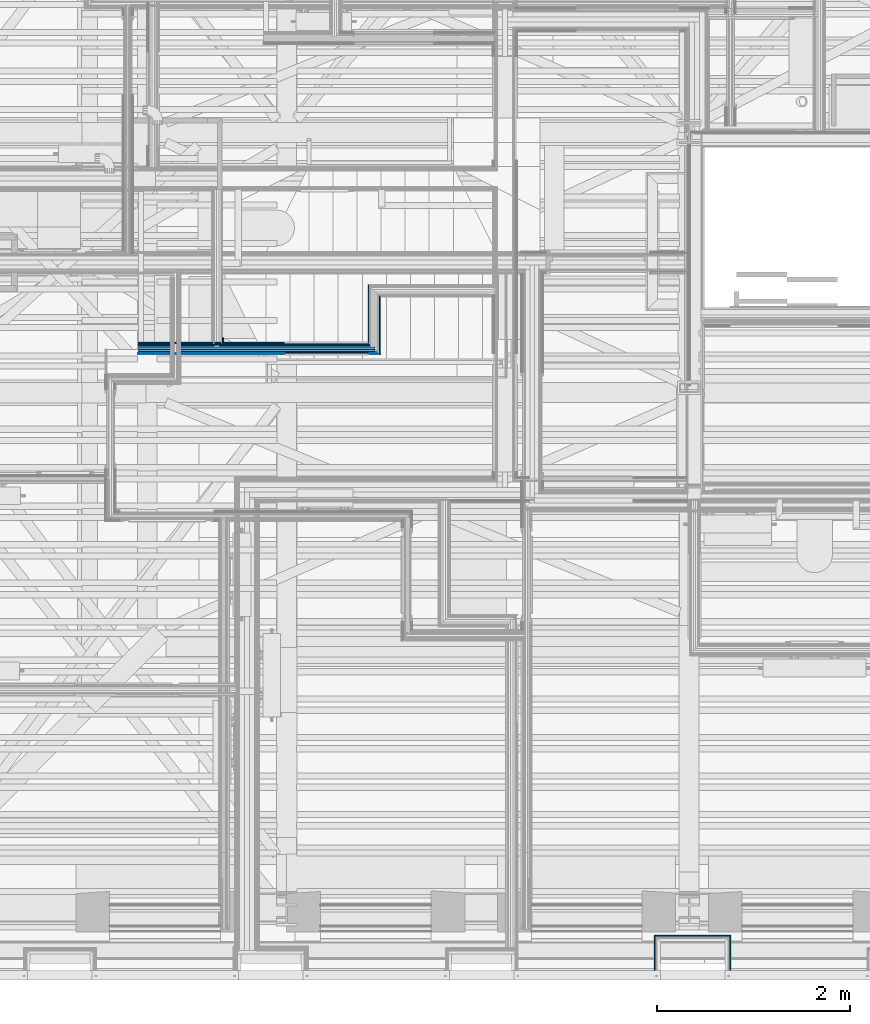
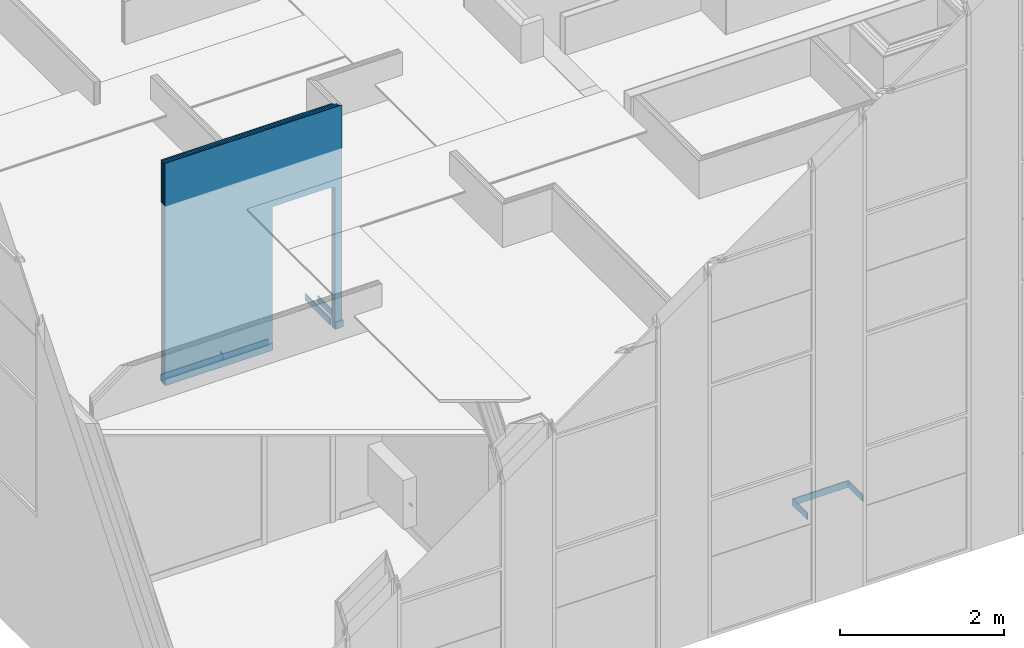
# One storey, part 65 of 183: 15 building element parts, 2 openings, 6 elements without a shape of their own.
"""IFC2X3 building model written with IfcOpenShell, lengths in metres."""

from ifc_helpers import new_model, entity, si_unit, converted_unit, derived_unit, money_unit, direction, frame, frame_2d, origin_with_axes, place, context, subcontext, project, spatial, polyline, rectangle, outline, extrude, material, type_object, element, aggregate, save


model = new_model("IFC2X3")

# Units and contexts
model_context = context("Model", 3, precision=1e-05, world=origin_with_axes(), true_north=direction((0.0, 1.0)))
body_context = subcontext(model_context, "Body", "Model", "MODEL_VIEW", scale=1.0)
ifc_project = project(units=[si_unit("LENGTHUNIT", "METRE"), si_unit("AREAUNIT", "SQUARE_METRE"), si_unit("VOLUMEUNIT", "CUBIC_METRE"), si_unit("ABSORBEDDOSEUNIT", "GRAY"), si_unit("AMOUNTOFSUBSTANCEUNIT", "MOLE"), si_unit("DOSEEQUIVALENTUNIT", "SIEVERT"), si_unit("ELECTRICCAPACITANCEUNIT", "FARAD"), si_unit("ELECTRICCHARGEUNIT", "COULOMB"), si_unit("ELECTRICCONDUCTANCEUNIT", "SIEMENS"), si_unit("ELECTRICCURRENTUNIT", "AMPERE"), si_unit("ELECTRICRESISTANCEUNIT", "OHM"), si_unit("ELECTRICVOLTAGEUNIT", "VOLT"), si_unit("ENERGYUNIT", "JOULE"), si_unit("FORCEUNIT", "NEWTON"), si_unit("FREQUENCYUNIT", "HERTZ"), si_unit("ILLUMINANCEUNIT", "LUX"), si_unit("INDUCTANCEUNIT", "HENRY"), si_unit("LUMINOUSFLUXUNIT", "LUMEN"), si_unit("LUMINOUSINTENSITYUNIT", "CANDELA"), si_unit("MAGNETICFLUXDENSITYUNIT", "TESLA"), si_unit("MAGNETICFLUXUNIT", "WEBER"), si_unit("MASSUNIT", "GRAM"), converted_unit("PLANEANGLEUNIT", "degree", entity("IfcReal", 0.0174532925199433), si_unit("PLANEANGLEUNIT", "RADIAN"), dimensions=[0, 0, 0, 0, 0, 0, 0]), si_unit("POWERUNIT", "WATT"), si_unit("PRESSUREUNIT", "PASCAL"), si_unit("RADIOACTIVITYUNIT", "BECQUEREL"), si_unit("SOLIDANGLEUNIT", "STERADIAN"), si_unit("THERMODYNAMICTEMPERATUREUNIT", "KELVIN"), si_unit("TIMEUNIT", "SECOND"), derived_unit("ACCELERATIONUNIT", [(si_unit("LENGTHUNIT", "METRE"), 1), (si_unit("TIMEUNIT", "SECOND"), -2)]), derived_unit("ANGULARVELOCITYUNIT", [(converted_unit("PLANEANGLEUNIT", "degree", entity("IfcReal", 0.0174532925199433), si_unit("PLANEANGLEUNIT", "RADIAN"), dimensions=[0, 0, 0, 0, 0, 0, 0]), 1), (si_unit("TIMEUNIT", "SECOND"), -1)]), derived_unit("CURVATUREUNIT", [(converted_unit("PLANEANGLEUNIT", "degree", entity("IfcReal", 0.0174532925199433), si_unit("PLANEANGLEUNIT", "RADIAN"), dimensions=[0, 0, 0, 0, 0, 0, 0]), 1), (si_unit("LENGTHUNIT", "METRE"), -1)]), derived_unit("DYNAMICVISCOSITYUNIT", [(si_unit("PRESSUREUNIT", "PASCAL"), 1), (si_unit("TIMEUNIT", "SECOND"), 1)]), derived_unit("HEATFLUXDENSITYUNIT", [(si_unit("POWERUNIT", "WATT"), 1), (si_unit("LENGTHUNIT", "METRE"), -2)]), derived_unit("HEATINGVALUEUNIT", [(si_unit("ENERGYUNIT", "JOULE"), 1), (si_unit("MASSUNIT", "GRAM"), -1)]), derived_unit("INTEGERCOUNTRATEUNIT", [(si_unit("TIMEUNIT", "SECOND"), -1)]), derived_unit("IONCONCENTRATIONUNIT", [(si_unit("MASSUNIT", "GRAM"), 1), (si_unit("VOLUMEUNIT", "CUBIC_METRE"), -1)]), derived_unit("ISOTHERMALMOISTURECAPACITYUNIT", [(si_unit("VOLUMEUNIT", "CUBIC_METRE"), 1), (si_unit("MASSUNIT", "GRAM"), -1)]), derived_unit("KINEMATICVISCOSITYUNIT", [(si_unit("AREAUNIT", "SQUARE_METRE"), 1), (si_unit("TIMEUNIT", "SECOND"), -1)]), derived_unit("LINEARFORCEUNIT", [(si_unit("FORCEUNIT", "NEWTON"), 1), (si_unit("LENGTHUNIT", "METRE"), -1)]), derived_unit("LINEARMOMENTUNIT", [(si_unit("FORCEUNIT", "NEWTON"), 1), (si_unit("LENGTHUNIT", "METRE"), -1)]), derived_unit("LINEARSTIFFNESSUNIT", [(si_unit("FORCEUNIT", "NEWTON"), 1), (si_unit("LENGTHUNIT", "METRE"), -1)]), derived_unit("LINEARVELOCITYUNIT", [(si_unit("LENGTHUNIT", "METRE"), 1), (si_unit("TIMEUNIT", "SECOND"), -1)]), derived_unit("LUMINOUSINTENSITYDISTRIBUTIONUNIT", [(si_unit("LUMINOUSINTENSITYUNIT", "CANDELA"), 1), (si_unit("LUMINOUSFLUXUNIT", "LUMEN"), -1)]), derived_unit("MASSDENSITYUNIT", [(si_unit("MASSUNIT", "GRAM"), 1), (si_unit("VOLUMEUNIT", "CUBIC_METRE"), -1)]), derived_unit("MASSFLOWRATEUNIT", [(si_unit("MASSUNIT", "GRAM"), 1), (si_unit("TIMEUNIT", "SECOND"), -1)]), derived_unit("MASSPERLENGTHUNIT", [(si_unit("MASSUNIT", "GRAM"), 1), (si_unit("LENGTHUNIT", "METRE"), -1)]), derived_unit("MODULUSOFELASTICITYUNIT", [(si_unit("FORCEUNIT", "NEWTON"), 1), (si_unit("AREAUNIT", "SQUARE_METRE"), -1)]), derived_unit("MODULUSOFLINEARSUBGRADEREACTIONUNIT", [(si_unit("FORCEUNIT", "NEWTON"), 1), (si_unit("LENGTHUNIT", "METRE"), -2)]), derived_unit("MODULUSOFROTATIONALSUBGRADEREACTIONUNIT", [(si_unit("FORCEUNIT", "NEWTON"), 1), (si_unit("LENGTHUNIT", "METRE"), 1)]), derived_unit("MODULUSOFSUBGRADEREACTIONUNIT", [(si_unit("FORCEUNIT", "NEWTON"), 1), (si_unit("VOLUMEUNIT", "CUBIC_METRE"), -1)]), derived_unit("MOISTUREDIFFUSIVITYUNIT", [(si_unit("VOLUMEUNIT", "CUBIC_METRE"), 1), (si_unit("TIMEUNIT", "SECOND"), -1)]), derived_unit("MOLECULARWEIGHTUNIT", [(si_unit("MASSUNIT", "GRAM"), 1), (si_unit("AMOUNTOFSUBSTANCEUNIT", "MOLE"), -1)]), derived_unit("PLANARFORCEUNIT", [(si_unit("FORCEUNIT", "NEWTON"), 1), (si_unit("LENGTHUNIT", "METRE"), -2)]), derived_unit("ROTATIONALFREQUENCYUNIT", [(si_unit("TIMEUNIT", "SECOND"), -1)]), derived_unit("ROTATIONALMASSUNIT", [(si_unit("MASSUNIT", "GRAM"), 1), (si_unit("LENGTHUNIT", "METRE"), 2)]), derived_unit("ROTATIONALSTIFFNESSUNIT", [(si_unit("FORCEUNIT", "NEWTON"), 1), (si_unit("LENGTHUNIT", "METRE"), 1), (converted_unit("PLANEANGLEUNIT", "degree", entity("IfcReal", 0.0174532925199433), si_unit("PLANEANGLEUNIT", "RADIAN"), dimensions=[0, 0, 0, 0, 0, 0, 0]), -1)]), derived_unit("SECTIONAREAINTEGRALUNIT", [(si_unit("LENGTHUNIT", "METRE"), 5)]), derived_unit("SECTIONMODULUSUNIT", [(si_unit("LENGTHUNIT", "METRE"), 3)]), derived_unit("SHEARMODULUSUNIT", [(si_unit("FORCEUNIT", "NEWTON"), 1), (si_unit("AREAUNIT", "SQUARE_METRE"), -1)]), derived_unit("SOUNDPOWERUNIT", [(si_unit("ENERGYUNIT", "JOULE"), 1), (si_unit("TIMEUNIT", "SECOND"), -1)]), derived_unit("SPECIFICHEATCAPACITYUNIT", [(si_unit("FORCEUNIT", "NEWTON"), 1), (si_unit("MASSUNIT", "GRAM"), -1), (si_unit("THERMODYNAMICTEMPERATUREUNIT", "KELVIN"), -1)]), derived_unit("TEMPERATUREGRADIENTUNIT", [(si_unit("THERMODYNAMICTEMPERATUREUNIT", "KELVIN"), 1), (si_unit("LENGTHUNIT", "METRE"), -1)]), derived_unit("THERMALADMITTANCEUNIT", [(si_unit("POWERUNIT", "WATT"), 1), (si_unit("AREAUNIT", "SQUARE_METRE"), -1), (si_unit("THERMODYNAMICTEMPERATUREUNIT", "KELVIN"), -1)]), derived_unit("THERMALCONDUCTANCEUNIT", [(si_unit("POWERUNIT", "WATT"), 1), (si_unit("LENGTHUNIT", "METRE"), -1), (si_unit("THERMODYNAMICTEMPERATUREUNIT", "KELVIN"), -1)]), derived_unit("THERMALEXPANSIONCOEFFICIENTUNIT", [(si_unit("THERMODYNAMICTEMPERATUREUNIT", "KELVIN"), -1)]), derived_unit("THERMALRESISTANCEUNIT", [(si_unit("AREAUNIT", "SQUARE_METRE"), 1), (si_unit("POWERUNIT", "WATT"), -1)]), derived_unit("THERMALTRANSMITTANCEUNIT", [(si_unit("POWERUNIT", "WATT"), 1), (si_unit("AREAUNIT", "SQUARE_METRE"), -1), (si_unit("THERMODYNAMICTEMPERATUREUNIT", "KELVIN"), -1)]), derived_unit("TORQUEUNIT", [(si_unit("FORCEUNIT", "NEWTON"), 1), (si_unit("LENGTHUNIT", "METRE"), 1)]), derived_unit("VAPORPERMEABILITYUNIT", [(si_unit("MASSUNIT", "GRAM"), 1), (si_unit("TIMEUNIT", "SECOND"), -1)]), derived_unit("VOLUMETRICFLOWRATEUNIT", [(si_unit("VOLUMEUNIT", "CUBIC_METRE"), 1), (si_unit("TIMEUNIT", "SECOND"), -1)]), derived_unit("WARPINGCONSTANTUNIT", [(si_unit("LENGTHUNIT", "METRE"), 6)]), derived_unit("WARPINGMOMENTUNIT", [(si_unit("FORCEUNIT", "NEWTON"), 1), (si_unit("LENGTHUNIT", "METRE"), 2)]), money_unit("GBP")], contexts=[model_context])

# Site, building, storey
site_placement = place(None, origin_with_axes())
site = spatial("IfcSite", under=ifc_project, at=site_placement, Name="Site", CompositionType="ELEMENT")
building_placement = place(site_placement, origin_with_axes())
building = spatial("IfcBuilding", under=site, at=building_placement, Name="Building01", CompositionType="ELEMENT")
storey_placement = place(building_placement, frame((0.0, 0.0, 5.15), z_axis=(0.0, 0.0, 1.0), x_axis=(1.0, 0.0, 0.0)))
storey = spatial("IfcBuildingStorey", under=building, at=storey_placement, Name="1F", CompositionType="ELEMENT", Elevation=5.15)

# Wall, building element part
wall_type_1 = type_object("IfcWallType", Name="SHE_A-Walls_Type06d_ExternalWallInsulation_48mm", PredefinedType="NOTDEFINED")
wall_1_placement = place(storey_placement, frame((8.79, 0.1, 0.0), z_axis=(0.0, 0.0, 1.0), x_axis=(0.0, 1.0, 0.0)))
wall_1 = element("IfcWall", 1, at=wall_1_placement, inside=storey, type_object=wall_type_1, Name="6D", ObjectType="SHE_A-Walls_Type06d_ExternalWallInsulation_48mm")
ifc_material_1 = material(Name="A_BSUK_Walls_Timber")
building_element_part_1_placement = place(wall_1_placement, origin_with_axes())
building_element_part_1 = element("IfcBuildingElementPart", 2, at=building_element_part_1_placement, material=ifc_material_1, Name="3", context=body_context, shape_type="SweptSolid", body=[
    extrude(outline(polyline([(0.363, 0.063), (0.0, 0.063), (0.0, 0.048), (0.348, 0.048), (0.363, 0.063)])), frame((0.0, 0.0, 0.015), z_axis=(0.0, 0.0, 1.0), x_axis=(1.0, 0.0, 0.0)), (0.0, 0.0, 1.0), 0.1),
])
aggregate(wall_1, [building_element_part_1])

wall_2_placement = place(storey_placement, frame((8.79, 0.4, 0.0), z_axis=(0.0, 0.0, 1.0), x_axis=(1.0, 0.0, 0.0)))
wall_2 = element("IfcWall", 3, at=wall_2_placement, inside=storey, type_object=wall_type_1, Name="6D", ObjectType="SHE_A-Walls_Type06d_ExternalWallInsulation_48mm")
building_element_part_2_placement = place(wall_2_placement, origin_with_axes())
building_element_part_2 = element("IfcBuildingElementPart", 4, at=building_element_part_2_placement, material=ifc_material_1, Name="3", context=body_context, shape_type="SweptSolid", body=[
    extrude(outline(polyline([(0.733, 0.063), (-0.063, 0.063), (-0.048, 0.048), (0.718, 0.048), (0.733, 0.063)])), frame((0.0, 0.0, 0.015), z_axis=(0.0, 0.0, 1.0), x_axis=(1.0, 0.0, 0.0)), (0.0, 0.0, 1.0), 0.1),
])
aggregate(wall_2, [building_element_part_2])

wall_3_placement = place(storey_placement, frame((9.46, 0.4, 0.0), z_axis=(0.0, 0.0, 1.0), x_axis=(0.0, -1.0, 0.0)))
wall_3 = element("IfcWall", 5, at=wall_3_placement, inside=storey, type_object=wall_type_1, Name="6D", ObjectType="SHE_A-Walls_Type06d_ExternalWallInsulation_48mm")
building_element_part_3_placement = place(wall_3_placement, origin_with_axes())
building_element_part_3 = element("IfcBuildingElementPart", 6, at=building_element_part_3_placement, material=ifc_material_1, Name="3", context=body_context, shape_type="SweptSolid", body=[
    extrude(outline(polyline([(-0.063, 0.063), (-0.048, 0.048), (0.3, 0.048), (0.3, 0.063), (-0.063, 0.063)])), frame((0.0, 0.0, 0.015), z_axis=(0.0, 0.0, 1.0), x_axis=(1.0, 0.0, 0.0)), (0.0, 0.0, 1.0), 0.1),
])
aggregate(wall_3, [building_element_part_3])

wall_type_2 = type_object("IfcWallType", Name="SHE_A-Walls_Type05a_Partition_95mm_tall", PredefinedType="NOTDEFINED")
wall_4_placement = place(storey_placement, frame((4.20573, 6.571475, 0.0), z_axis=(0.0, 0.0, 1.0), x_axis=(0.0, 1.0, 0.0)))
wall_4 = element("IfcWall", 7, at=wall_4_placement, inside=storey, type_object=wall_type_2, Name="5A", ObjectType="SHE_A-Walls_Type05a_Partition_95mm_tall")
building_element_part_4_placement = place(wall_4_placement, origin_with_axes())
building_element_part_4 = element("IfcBuildingElementPart", 8, at=building_element_part_4_placement, material=ifc_material_1, Name="1", context=body_context, shape_type="SweptSolid", body=[
    extrude(rectangle(XDim=0.015, YDim=0.050695, at=frame_2d((0.075347, -0.0425), x_axis=(0.0, -1.0))), frame((0.0, 0.0, 0.015), z_axis=(0.0, 0.0, 1.0), x_axis=(1.0, 0.0, 0.0)), (0.0, 0.0, 1.0), 0.1),
])
aggregate(wall_4, [building_element_part_4])

# Wall, openings, building element parts
wall_5_placement = place(storey_placement, frame((5.829669, 6.571475, 0.0), z_axis=(0.0, 0.0, 1.0), x_axis=(-1.0, 0.0, 0.0)))
wall_5 = element("IfcWall", 9, at=wall_5_placement, inside=storey, type_object=wall_type_2, Name="5A", ObjectType="SHE_A-Walls_Type05a_Partition_95mm_tall")
opening_1_placement = place(wall_5_placement, frame((0.058581, 0.075, -0.015), z_axis=(0.0, 0.0, 1.0), x_axis=(1.0, 0.0, 0.0)))
element("IfcOpeningElement", 10, at=opening_1_placement, cuts=wall_5, Name="Opening", ObjectType="Opening", context=body_context, shape_type="SweptSolid", body=[
    extrude(rectangle(XDim=2.142, YDim=0.834, at=frame_2d((0.417, 1.071), x_axis=(0.0, -1.0))), frame((0.0, 0.0, 0.0), z_axis=(0.0, -1.0, 0.0), x_axis=(1.0, 0.0, 0.0)), (0.0, 0.0, 1.0), 0.125),
])
opening_2_placement = place(wall_5_placement, frame((0.108581, 0.075, 0.0), z_axis=(0.0, 0.0, 1.0), x_axis=(1.0, 0.0, 0.0)))
element("IfcOpeningElement", 11, at=opening_2_placement, cuts=wall_5, Name="Opening", ObjectType="Opening", context=body_context, shape_type="SweptSolid", body=[
    extrude(rectangle(XDim=2.142, YDim=0.834, at=frame_2d((0.417, 1.071), x_axis=(0.0, -1.0))), frame((0.0, 0.0, 0.0), z_axis=(0.0, -1.0, 0.0), x_axis=(1.0, 0.0, 0.0)), (0.0, 0.0, 1.0), 0.125),
])
placement_1 = place(wall_5_placement, origin_with_axes())
building_element_part_5 = element("IfcBuildingElementPart", 12, at=placement_1, material=ifc_material_1, Name="1", context=body_context, shape_type="SweptSolid", body=[
    extrude(outline(polyline([(1.588939, -0.035), (0.06, -0.035), (0.075, -0.05), (1.588939, -0.05), (1.588939, -0.035)])), frame((0.0, 0.0, 0.015), z_axis=(0.0, 0.0, 1.0), x_axis=(1.0, 0.0, 0.0)), (0.0, 0.0, 1.0), 0.1),
])
building_element_part_6 = element("IfcBuildingElementPart", 13, at=placement_1, material=ifc_material_1, Name="2", context=body_context, shape_type="SweptSolid", body=[
    extrude(outline(polyline([(0.06, -0.035), (0.075, -0.05), (2.458939, -0.05), (2.458939, -0.035), (0.06, -0.035)])), frame((0.0, 0.0, 0.015), z_axis=(0.0, 0.0, 1.0), x_axis=(1.0, 0.0, 0.0)), (0.0, 0.0, 1.0), 0.1),
])
ifc_material_2 = material(Name="A_BSUK_WallInternal_Finishes_Plasterboard")
building_element_part_7 = element("IfcBuildingElementPart", 14, at=placement_1, material=ifc_material_2, Name="3", context=body_context, shape_type="SweptSolid", body=[
    extrude(outline(polyline([(1.600939, -0.023), (0.048, -0.023), (0.06, -0.035), (1.600939, -0.035), (1.600939, -0.023)])), origin_with_axes(), (0.0, 0.0, 1.0), 3.32),
])
building_element_part_8 = element("IfcBuildingElementPart", 15, at=placement_1, material=ifc_material_2, Name="4", context=body_context, shape_type="SweptSolid", body=[
    extrude(outline(polyline([(0.048, -0.023), (0.06, -0.035), (2.458939, -0.035), (2.458939, -0.023), (0.048, -0.023)])), origin_with_axes(), (0.0, 0.0, 1.0), 3.32),
])
ifc_material_3 = material(Name="Air Cavity")
building_element_part_9 = element("IfcBuildingElementPart", 16, at=placement_1, material=ifc_material_3, Name="5", context=body_context, shape_type="SweptSolid", body=[
    extrude(outline(polyline([(0.025, 0.0), (0.048, -0.023), (2.458939, -0.023), (2.458939, 0.0), (0.025, 0.0)])), origin_with_axes(), (0.0, 0.0, 1.0), 3.32),
])
ifc_material_4 = material(Name="A_BSUK_Insulation")
building_element_part_10 = element("IfcBuildingElementPart", 17, at=placement_1, material=ifc_material_4, Name="6", context=body_context, shape_type="SweptSolid", body=[
    extrude(rectangle(XDim=0.025, YDim=2.458939, at=frame_2d((1.229469, 0.0125), x_axis=(0.0, -1.0))), origin_with_axes(), (0.0, 0.0, 1.0), 3.32),
])
building_element_part_11 = element("IfcBuildingElementPart", 18, at=placement_1, material=ifc_material_3, Name="7", context=body_context, shape_type="SweptSolid", body=[
    extrude(rectangle(XDim=0.023, YDim=2.458939, at=frame_2d((1.229469, 0.0365), x_axis=(0.0, -1.0))), origin_with_axes(), (0.0, 0.0, 1.0), 3.32),
])
building_element_part_12 = element("IfcBuildingElementPart", 19, at=placement_1, material=ifc_material_2, Name="8", context=body_context, shape_type="SweptSolid", body=[
    extrude(outline(polyline([(-0.035, 0.06), (-0.023, 0.048), (2.458939, 0.048), (2.458939, 0.06), (-0.035, 0.06)])), origin_with_axes(), (0.0, 0.0, 1.0), 3.32),
])
building_element_part_13 = element("IfcBuildingElementPart", 20, at=placement_1, material=ifc_material_1, Name="9", context=body_context, shape_type="SweptSolid", body=[
    extrude(outline(polyline([(-0.05, 0.075), (-0.035, 0.06), (2.458939, 0.06), (2.458939, 0.075), (-0.05, 0.075)])), frame((0.0, 0.0, 0.015), z_axis=(0.0, 0.0, 1.0), x_axis=(1.0, 0.0, 0.0)), (0.0, 0.0, 1.0), 0.1),
])
aggregate(wall_5, [building_element_part_5, building_element_part_6, building_element_part_7, building_element_part_8, building_element_part_9, building_element_part_10, building_element_part_11, building_element_part_12, building_element_part_13])

# Wall, building element parts
wall_6_placement = place(storey_placement, frame((5.804669, 6.571475, 0.0), z_axis=(0.0, 0.0, 1.0), x_axis=(0.0, 1.0, 0.0)))
wall_6 = element("IfcWall", 21, at=wall_6_placement, inside=storey, type_object=wall_type_2, Name="5A", ObjectType="SHE_A-Walls_Type05a_Partition_95mm_tall")
placement_2 = place(wall_6_placement, origin_with_axes())
building_element_part_14 = element("IfcBuildingElementPart", 22, at=placement_2, material=ifc_material_1, Name="1", context=body_context, shape_type="SweptSolid", body=[
    extrude(outline(polyline([(0.54, -0.06), (-0.06, -0.06), (-0.075, -0.075), (0.525, -0.075), (0.54, -0.06)])), frame((0.0, 0.0, 0.015), z_axis=(0.0, 0.0, 1.0), x_axis=(1.0, 0.0, 0.0)), (0.0, 0.0, 1.0), 0.1),
])
building_element_part_15 = element("IfcBuildingElementPart", 23, at=placement_2, material=ifc_material_1, Name="7", context=body_context, shape_type="SweptSolid", body=[
    extrude(outline(polyline([(0.65, 0.05), (0.05, 0.05), (0.035, 0.035), (0.635, 0.035), (0.65, 0.05)])), frame((0.0, 0.0, 0.015), z_axis=(0.0, 0.0, 1.0), x_axis=(1.0, 0.0, 0.0)), (0.0, 0.0, 1.0), 0.1),
])
aggregate(wall_6, [building_element_part_14, building_element_part_15])

save(model, "model.ifc")
